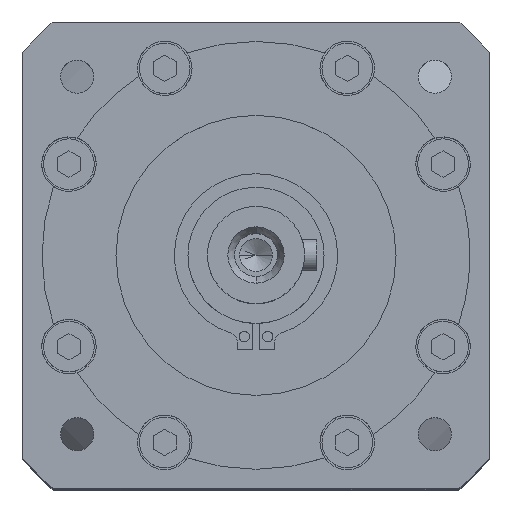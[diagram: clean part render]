
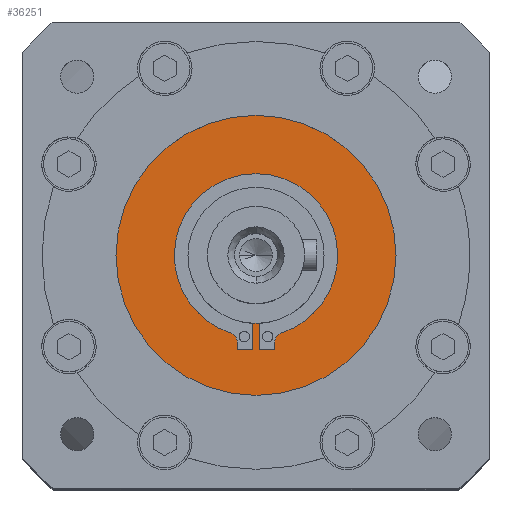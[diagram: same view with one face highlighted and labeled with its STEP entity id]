
A CAD part, top view. The second image highlights one B-rep face of the part: STEP entity #36251.
In plain terms, the highlighted planar face has unit normal (0, 0, 1).
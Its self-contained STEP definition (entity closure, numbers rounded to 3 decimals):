
#153 = EDGE_CURVE ( 'NONE', #17907, #39894, #42005, .T. ) ;
#441 = DIRECTION ( 'NONE',  ( -1., 0., 0. ) ) ;
#1244 = VERTEX_POINT ( 'NONE', #16550 ) ;
#1425 = DIRECTION ( 'NONE',  ( -1., 0., 0. ) ) ;
#2205 = EDGE_CURVE ( 'NONE', #46041, #32128, #45866, .T. ) ;
#2458 = EDGE_CURVE ( 'NONE', #21359, #26055, #7256, .T. ) ;
#2620 = EDGE_CURVE ( 'NONE', #26055, #9890, #30247, .T. ) ;
#3205 = LINE ( 'NONE', #26932, #39035 ) ;
#3207 = EDGE_CURVE ( 'NONE', #4972, #41990, #21824, .T. ) ;
#3285 = VERTEX_POINT ( 'NONE', #15107 ) ;
#3377 = CARTESIAN_POINT ( 'NONE',  ( 4.85, 0., -2.7 ) ) ;
#3432 = DIRECTION ( 'NONE',  ( 0., 1., 0. ) ) ;
#3975 = LINE ( 'NONE', #21170, #20880 ) ;
#4262 = EDGE_CURVE ( 'NONE', #41990, #9854, #3205, .T. ) ;
#4706 = ORIENTED_EDGE ( 'NONE', *, *, #2205, .F. ) ;
#4760 = AXIS2_PLACEMENT_3D ( 'NONE', #28438, #6973, #32060 ) ;
#4972 = VERTEX_POINT ( 'NONE', #45698 ) ;
#5243 = AXIS2_PLACEMENT_3D ( 'NONE', #31281, #9861, #34875 ) ;
#5275 = VERTEX_POINT ( 'NONE', #21514 ) ;
#5921 = LINE ( 'NONE', #22305, #42818 ) ;
#6358 = ORIENTED_EDGE ( 'NONE', *, *, #16004, .F. ) ;
#6712 = VECTOR ( 'NONE', #3432, 1000. ) ;
#6756 = DIRECTION ( 'NONE',  ( 0., 0., 1. ) ) ;
#6973 = DIRECTION ( 'NONE',  ( 0., 0., -1. ) ) ;
#7256 = CIRCLE ( 'NONE', #8623, 21. ) ;
#7563 = PLANE ( 'NONE',  #28594 ) ;
#8228 = EDGE_CURVE ( 'NONE', #9890, #26934, #17308, .T. ) ;
#8593 = CARTESIAN_POINT ( 'NONE',  ( 0.85, -17.479, -2.7 ) ) ;
#8623 = AXIS2_PLACEMENT_3D ( 'NONE', #38454, #20564, #38300 ) ;
#9173 = ORIENTED_EDGE ( 'NONE', *, *, #2458, .F. ) ;
#9834 = DIRECTION ( 'NONE',  ( 0., 0., 1. ) ) ;
#9854 = VERTEX_POINT ( 'NONE', #20959 ) ;
#9861 = DIRECTION ( 'NONE',  ( 0., 0., 1. ) ) ;
#9890 = VERTEX_POINT ( 'NONE', #16873 ) ;
#10227 = CIRCLE ( 'NONE', #44944, 0.5 ) ;
#10848 = ORIENTED_EDGE ( 'NONE', *, *, #13997, .F. ) ;
#12237 = CIRCLE ( 'NONE', #4760, 2.5 ) ;
#12272 = VECTOR ( 'NONE', #19261, 1000. ) ;
#12374 = CARTESIAN_POINT ( 'NONE',  ( 36., 0., -2.7 ) ) ;
#12535 = EDGE_CURVE ( 'NONE', #1244, #21359, #25417, .T. ) ;
#12985 = EDGE_CURVE ( 'NONE', #5275, #46041, #13069, .T. ) ;
#13069 = CIRCLE ( 'NONE', #23602, 0.5 ) ;
#13997 = EDGE_CURVE ( 'NONE', #38798, #20451, #3975, .T. ) ;
#14206 = ORIENTED_EDGE ( 'NONE', *, *, #153, .T. ) ;
#15026 = ORIENTED_EDGE ( 'NONE', *, *, #2620, .F. ) ;
#15034 = VECTOR ( 'NONE', #43434, 1000. ) ;
#15107 = CARTESIAN_POINT ( 'NONE',  ( 6.568, -19.946, -2.7 ) ) ;
#15786 = ORIENTED_EDGE ( 'NONE', *, *, #12985, .F. ) ;
#16004 = EDGE_CURVE ( 'NONE', #3285, #1244, #25698, .T. ) ;
#16165 = ORIENTED_EDGE ( 'NONE', *, *, #19364, .F. ) ;
#16550 = CARTESIAN_POINT ( 'NONE',  ( 21., 0., -2.7 ) ) ;
#16746 = EDGE_CURVE ( 'NONE', #39894, #17907, #34054, .T. ) ;
#16873 = CARTESIAN_POINT ( 'NONE',  ( -4.85, -22.321, -2.7 ) ) ;
#16951 = FACE_BOUND ( 'NONE', #17995, .T. ) ;
#17308 = LINE ( 'NONE', #45363, #15034 ) ;
#17907 = VERTEX_POINT ( 'NONE', #28515 ) ;
#17995 = EDGE_LOOP ( 'NONE', ( #18870, #19668, #15026, #9173, #30833, #6358, #21150, #4706, #15786, #40945, #10848, #16165, #31506, #43954 ) ) ;
#18870 = ORIENTED_EDGE ( 'NONE', *, *, #34740, .F. ) ;
#19009 = DIRECTION ( 'NONE',  ( 0., 0., 1. ) ) ;
#19261 = DIRECTION ( 'NONE',  ( 1., 0., 0. ) ) ;
#19364 = EDGE_CURVE ( 'NONE', #9854, #38798, #24975, .T. ) ;
#19668 = ORIENTED_EDGE ( 'NONE', *, *, #8228, .F. ) ;
#20122 = CARTESIAN_POINT ( 'NONE',  ( -6.568, -19.946, -2.7 ) ) ;
#20451 = VERTEX_POINT ( 'NONE', #27736 ) ;
#20564 = DIRECTION ( 'NONE',  ( 0., 0., 1. ) ) ;
#20880 = VECTOR ( 'NONE', #24754, 1000. ) ;
#20959 = CARTESIAN_POINT ( 'NONE',  ( -0.85, -17.479, -2.7 ) ) ;
#21065 = DIRECTION ( 'NONE',  ( 0., 0., 1. ) ) ;
#21150 = ORIENTED_EDGE ( 'NONE', *, *, #32539, .F. ) ;
#21170 = CARTESIAN_POINT ( 'NONE',  ( 0.85, 0., -2.7 ) ) ;
#21359 = VERTEX_POINT ( 'NONE', #43919 ) ;
#21374 = CARTESIAN_POINT ( 'NONE',  ( 0., -24.279, -2.7 ) ) ;
#21442 = DIRECTION ( 'NONE',  ( 0., 0., -1. ) ) ;
#21514 = CARTESIAN_POINT ( 'NONE',  ( 4.35, -24.279, -2.7 ) ) ;
#21824 = LINE ( 'NONE', #21374, #12272 ) ;
#22035 = DIRECTION ( 'NONE',  ( 0., 0., -1. ) ) ;
#22084 = CARTESIAN_POINT ( 'NONE',  ( 4.85, -23.779, -2.7 ) ) ;
#22305 = CARTESIAN_POINT ( 'NONE',  ( 0., -24.279, -2.7 ) ) ;
#22964 = DIRECTION ( 'NONE',  ( 0., 0., 1. ) ) ;
#23517 = AXIS2_PLACEMENT_3D ( 'NONE', #40354, #19009, #43900 ) ;
#23602 = AXIS2_PLACEMENT_3D ( 'NONE', #31246, #9834, #34844 ) ;
#23797 = AXIS2_PLACEMENT_3D ( 'NONE', #28236, #6756, #31833 ) ;
#24754 = DIRECTION ( 'NONE',  ( 0., -1., 0. ) ) ;
#24975 = CIRCLE ( 'NONE', #31367, 17.5 ) ;
#25417 = CIRCLE ( 'NONE', #5243, 21. ) ;
#25698 = CIRCLE ( 'NONE', #23797, 21. ) ;
#26055 = VERTEX_POINT ( 'NONE', #20122 ) ;
#26932 = CARTESIAN_POINT ( 'NONE',  ( -0.85, 0., -2.7 ) ) ;
#26934 = VERTEX_POINT ( 'NONE', #40129 ) ;
#27736 = CARTESIAN_POINT ( 'NONE',  ( 0.85, -24.279, -2.7 ) ) ;
#27785 = DIRECTION ( 'NONE',  ( 0., 1., 0. ) ) ;
#28236 = CARTESIAN_POINT ( 'NONE',  ( 0., 0., -2.7 ) ) ;
#28438 = CARTESIAN_POINT ( 'NONE',  ( 7.35, -22.321, -2.7 ) ) ;
#28515 = CARTESIAN_POINT ( 'NONE',  ( -36., 0., -2.7 ) ) ;
#28594 = AXIS2_PLACEMENT_3D ( 'NONE', #43328, #22035, #441 ) ;
#29458 = DIRECTION ( 'NONE',  ( 1., 0., 0. ) ) ;
#30247 = CIRCLE ( 'NONE', #44490, 2.5 ) ;
#30745 = CARTESIAN_POINT ( 'NONE',  ( -0.85, -24.279, -2.7 ) ) ;
#30833 = ORIENTED_EDGE ( 'NONE', *, *, #12535, .F. ) ;
#31246 = CARTESIAN_POINT ( 'NONE',  ( 4.35, -23.779, -2.7 ) ) ;
#31281 = CARTESIAN_POINT ( 'NONE',  ( 0., 0., -2.7 ) ) ;
#31367 = AXIS2_PLACEMENT_3D ( 'NONE', #42359, #21065, #45976 ) ;
#31506 = ORIENTED_EDGE ( 'NONE', *, *, #4262, .F. ) ;
#31833 = DIRECTION ( 'NONE',  ( -1., 0., 0. ) ) ;
#32060 = DIRECTION ( 'NONE',  ( -1., 0., 0. ) ) ;
#32128 = VERTEX_POINT ( 'NONE', #36000 ) ;
#32539 = EDGE_CURVE ( 'NONE', #32128, #3285, #12237, .T. ) ;
#34054 = CIRCLE ( 'NONE', #23517, 36. ) ;
#34271 = EDGE_LOOP ( 'NONE', ( #36838, #14206 ) ) ;
#34740 = EDGE_CURVE ( 'NONE', #26934, #4972, #10227, .T. ) ;
#34844 = DIRECTION ( 'NONE',  ( -1., 0., 0. ) ) ;
#34875 = DIRECTION ( 'NONE',  ( -1., 0., 0. ) ) ;
#36000 = CARTESIAN_POINT ( 'NONE',  ( 4.85, -22.321, -2.7 ) ) ;
#36251 = ADVANCED_FACE ( 'NONE', ( #44249, #16951 ), #7563, .F. ) ;
#36838 = ORIENTED_EDGE ( 'NONE', *, *, #16746, .T. ) ;
#38300 = DIRECTION ( 'NONE',  ( -1., 0., 0. ) ) ;
#38454 = CARTESIAN_POINT ( 'NONE',  ( 0., 0., -2.7 ) ) ;
#38798 = VERTEX_POINT ( 'NONE', #8593 ) ;
#39035 = VECTOR ( 'NONE', #27785, 1000. ) ;
#39894 = VERTEX_POINT ( 'NONE', #12374 ) ;
#40129 = CARTESIAN_POINT ( 'NONE',  ( -4.85, -23.779, -2.7 ) ) ;
#40354 = CARTESIAN_POINT ( 'NONE',  ( 0., 0., -2.7 ) ) ;
#40770 = EDGE_CURVE ( 'NONE', #20451, #5275, #5921, .T. ) ;
#40945 = ORIENTED_EDGE ( 'NONE', *, *, #40770, .F. ) ;
#41159 = DIRECTION ( 'NONE',  ( 0., 0., 1. ) ) ;
#41990 = VERTEX_POINT ( 'NONE', #30745 ) ;
#42005 = CIRCLE ( 'NONE', #45961, 36. ) ;
#42359 = CARTESIAN_POINT ( 'NONE',  ( 0., 0., -2.7 ) ) ;
#42574 = CARTESIAN_POINT ( 'NONE',  ( 0., 0., -2.7 ) ) ;
#42818 = VECTOR ( 'NONE', #29458, 1000. ) ;
#43328 = CARTESIAN_POINT ( 'NONE',  ( 0., 0., -2.7 ) ) ;
#43434 = DIRECTION ( 'NONE',  ( 0., -1., 0. ) ) ;
#43900 = DIRECTION ( 'NONE',  ( 1., 0., 0. ) ) ;
#43919 = CARTESIAN_POINT ( 'NONE',  ( -21., 0., -2.7 ) ) ;
#43932 = DIRECTION ( 'NONE',  ( 1., 0., 0. ) ) ;
#43954 = ORIENTED_EDGE ( 'NONE', *, *, #3207, .F. ) ;
#44249 = FACE_OUTER_BOUND ( 'NONE', #34271, .T. ) ;
#44273 = CARTESIAN_POINT ( 'NONE',  ( -4.35, -23.779, -2.7 ) ) ;
#44490 = AXIS2_PLACEMENT_3D ( 'NONE', #46342, #21442, #46432 ) ;
#44944 = AXIS2_PLACEMENT_3D ( 'NONE', #44273, #22964, #1425 ) ;
#45363 = CARTESIAN_POINT ( 'NONE',  ( -4.85, 0., -2.7 ) ) ;
#45698 = CARTESIAN_POINT ( 'NONE',  ( -4.35, -24.279, -2.7 ) ) ;
#45866 = LINE ( 'NONE', #3377, #6712 ) ;
#45961 = AXIS2_PLACEMENT_3D ( 'NONE', #42574, #41159, #43932 ) ;
#45976 = DIRECTION ( 'NONE',  ( -1., 0., 0. ) ) ;
#46041 = VERTEX_POINT ( 'NONE', #22084 ) ;
#46342 = CARTESIAN_POINT ( 'NONE',  ( -7.35, -22.321, -2.7 ) ) ;
#46432 = DIRECTION ( 'NONE',  ( -1., 0., 0. ) ) ;
